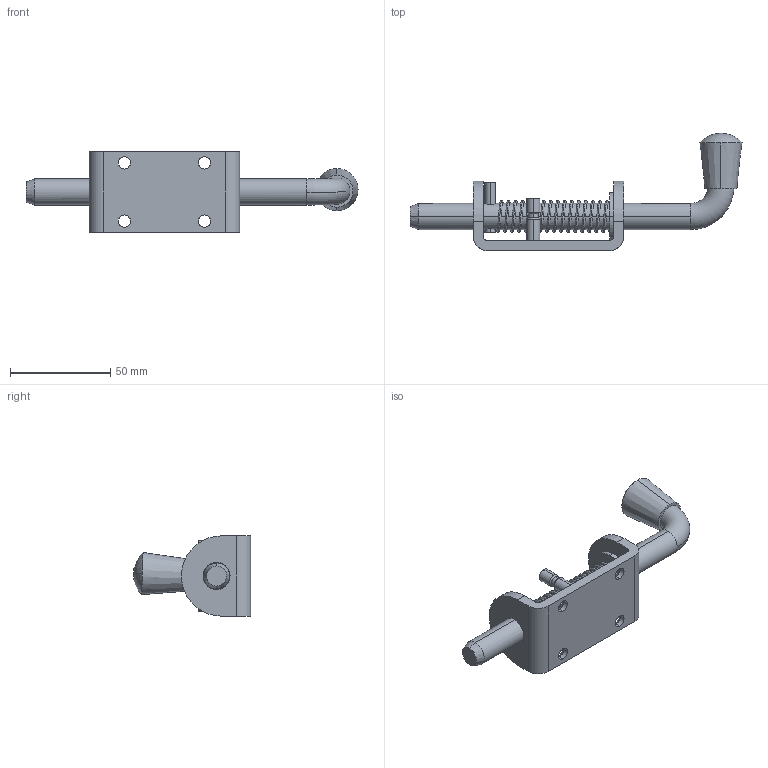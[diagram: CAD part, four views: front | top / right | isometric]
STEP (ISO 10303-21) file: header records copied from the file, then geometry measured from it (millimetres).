
FILE_DESCRIPTION (( 'STEP AP203' ), '1' );
FILE_NAME ('9599.STEP', '2014-07-09T03:17:22', ( '' ), ( '' ), 'SwSTEP 2.0', 'SolidWorks 2014', '' );
FILE_SCHEMA (( 'CONFIG_CONTROL_DESIGN' ));
Length unit declared in the file: millimetre
Products named in the file (3): Bolt; 9599; Plate
Assembly tree (2 placements, depth 2):
  9599
    Plate
    Bolt
Bounding box: 165.5 x 58.48 x 40 mm (x, y, z)
Volume: 53606.5 mm3; surface area: 24797.7 mm2
Topology: 4 solids, 4 shells, 96 faces, 224 edges, 141 vertices
Faces by surface type: cylinder 48, plane 22, cone 20, torus 2, sphere 2, bspline 2
Entity records: 9680 total; most frequent: CARTESIAN_POINT 7113, DIRECTION 512, ORIENTED_EDGE 448, EDGE_CURVE 224, AXIS2_PLACEMENT_3D 209, VERTEX_POINT 141, EDGE_LOOP 115, CIRCLE 110
